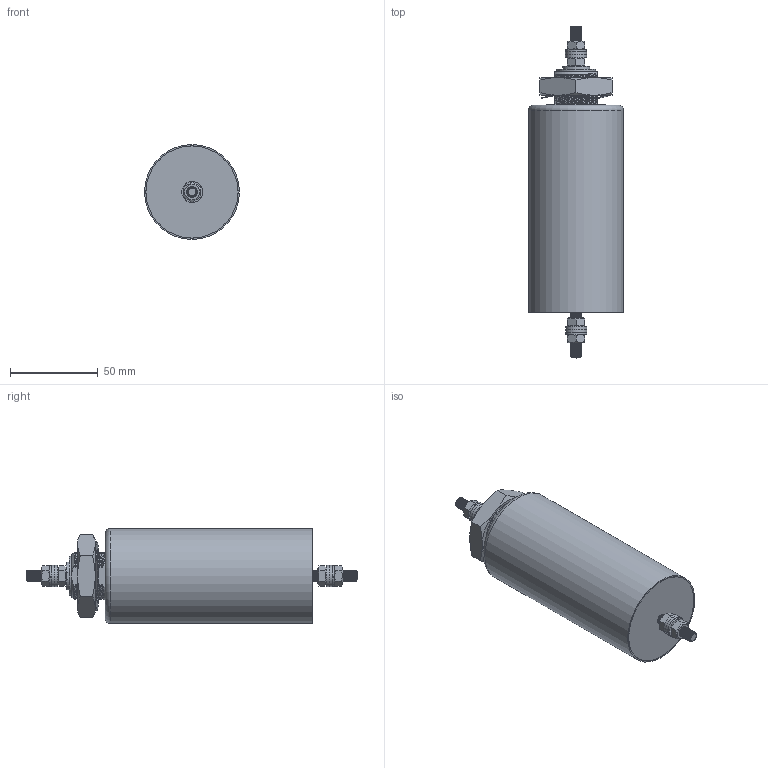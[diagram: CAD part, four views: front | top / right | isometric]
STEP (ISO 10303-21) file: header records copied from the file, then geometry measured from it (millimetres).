
FILE_DESCRIPTION(/* description */ (''),/* implementation_level */ '2;1');
FILE_NAME(/* name */ 'C:\SapWorkDir\Inventor\P01\ConvertTempPath\188028_IPT_000.ipt.stp',/* time_stamp */ '2018-01-24T09:04:37+07:00',/* author */ ('Eakchai.Yodchai'),/* organization */ ('Schaffner Thailand Ltd.'),/* preprocessor_version */ 'ST-DEVELOPER v16.5',/* originating_system */ 'Autodesk Inventor 2017',/* authorisation */ '');
FILE_SCHEMA (('AUTOMOTIVE_DESIGN { 1 0 10303 214 3 1 1 }'));
Length unit declared in the file: millimetre
Products named in the file (1): 801836
Bounding box: 54 x 189 x 54 mm (x, y, z)
Volume: 292378.2 mm3; surface area: 43381.5 mm2
Topology: 1 solids, 2 shells, 266 faces, 770 edges, 500 vertices
Faces by surface type: cylinder 87, plane 82, bspline 60, cone 36, torus 1
Full cylindrical faces by diameter (mm): 6.2 x1, 6.4 x4, 11.2 x1, 12 x4, 17.3 x1, 22.3 x1, 27 x1, 30 x1, 52.4 x1, 52.5 x1, 54 x1
Entity records: 17776 total; most frequent: CARTESIAN_POINT 11448, ORIENTED_EDGE 1438, DIRECTION 934, EDGE_CURVE 719, VERTEX_POINT 485, AXIS2_PLACEMENT_3D 361, EDGE_LOOP 334, B_SPLINE_CURVE_WITH_KNOTS 274
